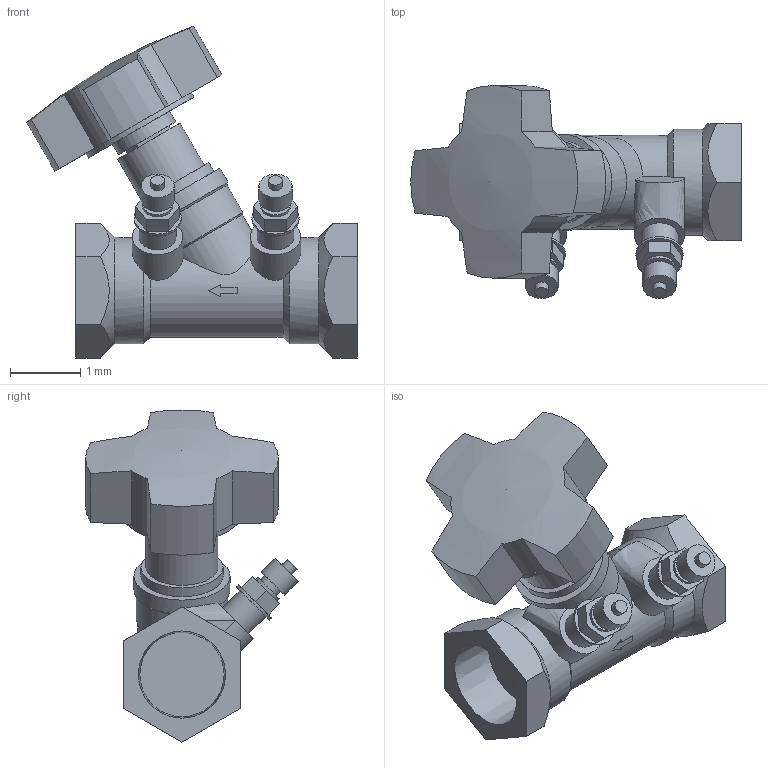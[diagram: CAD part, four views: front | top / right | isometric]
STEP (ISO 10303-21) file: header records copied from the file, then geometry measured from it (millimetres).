
FILE_DESCRIPTION(('Open CASCADE Model'),'2;1');
FILE_NAME('Open CASCADE Shape Model','2021-09-29T13:59:58',('Author'),( 'Open CASCADE'),'Open CASCADE STEP processor 7.3','Open CASCADE 7.3' ,'Unknown');
FILE_SCHEMA(('AUTOMOTIVE_DESIGN { 1 0 10303 214 1 1 1 1 }'));
Length unit declared in the file: millimetre
Products named in the file (1): Open CASCADE STEP translator 7.3 1
Bounding box: 4.7 x 3.02 x 4.72 mm (x, y, z)
Volume: 12.3 mm3; surface area: 59 mm2
Topology: 1 solids, 3 shells, 150 faces, 352 edges, 230 vertices
Faces by surface type: plane 97, cylinder 39, cone 10, extrusion 3, sphere 1
Full cylindrical faces by diameter (mm): 0.195 x2, 0.32 x2, 0.43 x2, 0.47 x2, 0.525 x2, 0.67 x2, 0.94 x1, 1.023 x1, 1.171 x1, 1.365 x1, 1.51 x2, 1.737 x1
Entity records: 11472 total; most frequent: CARTESIAN_POINT 4604, DIRECTION 1236, ORIENTED_EDGE 702, PCURVE 702, DEFINITIONAL_REPRESENTATION 702, VECTOR 657, LINE 654, EDGE_CURVE 351
